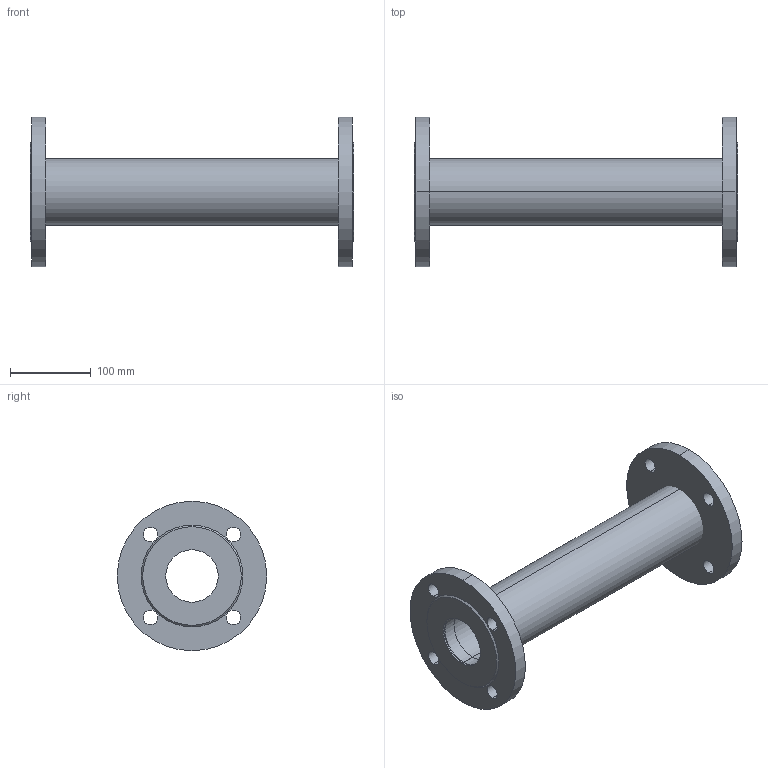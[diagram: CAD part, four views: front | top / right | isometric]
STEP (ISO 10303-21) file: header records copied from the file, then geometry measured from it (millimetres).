
FILE_DESCRIPTION(('STEP AP214'),'1');
FILE_NAME('U:/VDI-Daten/8500/8500_PN16_L400_DN65.STP','2012-06-12T14:05:59',(' '),(' '),'Spatial InterOp 3D',' ',' ');
FILE_SCHEMA(('automotive_design'));
Length unit declared in the file: millimetre
Products named in the file (5): 3D-Objekt
Bounding box: 400 x 185 x 185 mm (x, y, z)
Volume: 1573860.8 mm3; surface area: 348284.7 mm2
Topology: 5 solids, 5 shells, 46 faces, 108 edges, 72 vertices
Faces by surface type: cylinder 32, plane 10, cone 4
Entity records: 1901 total; most frequent: DIRECTION 282, CARTESIAN_POINT 231, ORIENTED_EDGE 216, AXIS2_PLACEMENT_3D 123, EDGE_CURVE 108, EDGE_LOOP 72, VERTEX_POINT 72, CIRCLE 72
